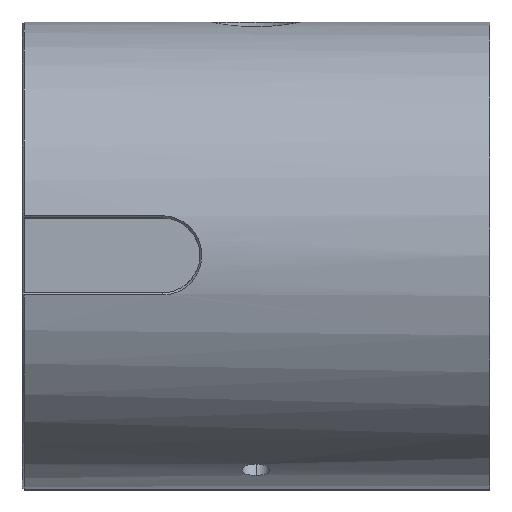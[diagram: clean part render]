
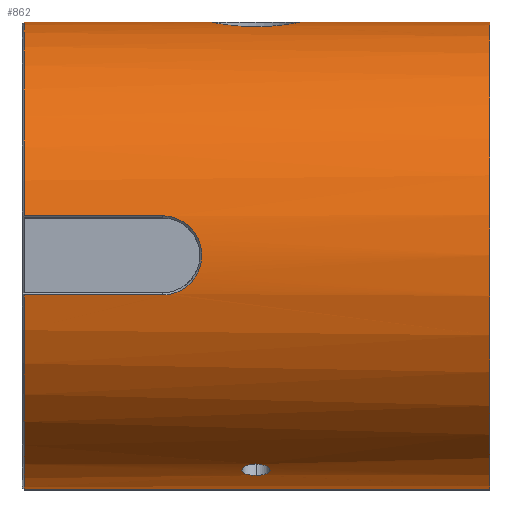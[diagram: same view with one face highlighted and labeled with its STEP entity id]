
A CAD part, top view. The second image highlights one B-rep face of the part: STEP entity #862.
In plain terms, the highlighted cylindrical face has radius 25 mm (diameter 50 mm), a partial arc.
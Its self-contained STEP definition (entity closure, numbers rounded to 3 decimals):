
#139=DIRECTION('',(-1.,0.,0.));
#140=VECTOR('',#139,20.);
#141=CARTESIAN_POINT('',(25.,25.,0.));
#142=LINE('',#141,#140);
#148=DIRECTION('',(-1.,0.,0.));
#149=VECTOR('',#148,19.8);
#150=CARTESIAN_POINT('',(-5.,25.,0.));
#151=LINE('',#150,#149);
#156=CARTESIAN_POINT('',(-24.8,4.234,24.639));
#166=CARTESIAN_POINT('',(-24.8,0.,0.));
#167=DIRECTION('',(1.,0.,0.));
#168=DIRECTION('',(0.,1.,0.));
#169=AXIS2_PLACEMENT_3D('',#166,#167,#168);
#171=CARTESIAN_POINT('',(-5.,25.,0.));
#172=CARTESIAN_POINT('',(-5.,25.,0.351));
#173=CARTESIAN_POINT('',(-4.928,24.985,1.037));
#174=CARTESIAN_POINT('',(-4.606,24.923,2.039));
#175=CARTESIAN_POINT('',(-4.079,24.83,2.955));
#176=CARTESIAN_POINT('',(-3.369,24.721,3.745));
#177=CARTESIAN_POINT('',(-2.51,24.617,4.367));
#178=CARTESIAN_POINT('',(-1.546,24.537,4.793));
#179=CARTESIAN_POINT('',(-0.522,24.493,5.009));
#180=CARTESIAN_POINT('',(0.522,24.493,5.009));
#181=CARTESIAN_POINT('',(1.546,24.537,4.793));
#182=CARTESIAN_POINT('',(2.51,24.617,4.367));
#183=CARTESIAN_POINT('',(3.369,24.721,3.745));
#184=CARTESIAN_POINT('',(4.079,24.83,2.955));
#185=CARTESIAN_POINT('',(4.606,24.923,2.039));
#186=CARTESIAN_POINT('',(4.928,24.985,1.037));
#187=CARTESIAN_POINT('',(5.,25.,0.351));
#188=CARTESIAN_POINT('',(5.,25.,0.));
#190=CARTESIAN_POINT('',(25.,0.,0.));
#191=DIRECTION('',(1.,0.,0.));
#192=DIRECTION('',(0.,1.,0.));
#193=AXIS2_PLACEMENT_3D('',#190,#191,#192);
#195=CARTESIAN_POINT('',(-24.8,0.,0.));
#196=DIRECTION('',(1.,0.,0.));
#197=DIRECTION('',(0.,-0.169,0.986));
#198=AXIS2_PLACEMENT_3D('',#195,#196,#197);
#200=DIRECTION('',(-1.,0.,0.));
#201=VECTOR('',#200,14.8);
#202=CARTESIAN_POINT('',(-10.,-4.234,24.639));
#203=LINE('',#202,#201);
#204=CARTESIAN_POINT('',(-10.,4.234,24.639));
#205=CARTESIAN_POINT('',(-9.776,4.234,24.639));
#206=CARTESIAN_POINT('',(-9.253,4.192,24.646));
#207=CARTESIAN_POINT('',(-8.443,3.968,24.684));
#208=CARTESIAN_POINT('',(-7.63,3.536,24.751));
#209=CARTESIAN_POINT('',(-6.932,2.94,24.83));
#210=CARTESIAN_POINT('',(-6.379,2.209,24.906));
#211=CARTESIAN_POINT('',(-5.995,1.379,24.967));
#212=CARTESIAN_POINT('',(-5.796,0.489,25.001));
#213=CARTESIAN_POINT('',(-5.789,-0.422,
25.002));
#214=CARTESIAN_POINT('',(-5.974,-1.315,24.97));
#215=CARTESIAN_POINT('',(-6.345,-2.151,24.912));
#216=CARTESIAN_POINT('',(-6.886,-2.891,24.835));
#217=CARTESIAN_POINT('',(-7.575,-3.497,24.756));
#218=CARTESIAN_POINT('',(-8.379,-3.942,24.688));
#219=CARTESIAN_POINT('',(-9.207,-4.185,24.647));
#220=CARTESIAN_POINT('',(-9.753,-4.234,24.639));
#221=CARTESIAN_POINT('',(-10.,-4.234,24.639));
#223=DIRECTION('',(1.,0.,0.));
#224=VECTOR('',#223,14.8);
#225=CARTESIAN_POINT('',(-24.8,4.234,24.639));
#226=LINE('',#225,#224);
#248=CARTESIAN_POINT('',(0.,-22.294,11.313));
#249=CARTESIAN_POINT('',(-0.131,-22.294,
11.313));
#250=CARTESIAN_POINT('',(-0.393,-22.309,
11.282));
#251=CARTESIAN_POINT('',(-0.759,-22.378,
11.147));
#252=CARTESIAN_POINT('',(-1.073,-22.485,10.93));
#253=CARTESIAN_POINT('',(-1.314,-22.621,10.646));
#254=CARTESIAN_POINT('',(-1.466,-22.775,10.312));
#255=CARTESIAN_POINT('',(-1.517,-22.936,9.95));
#256=CARTESIAN_POINT('',(-1.465,-23.091,9.585));
#257=CARTESIAN_POINT('',(-1.312,-23.23,9.242));
#258=CARTESIAN_POINT('',(-1.07,-23.345,8.946));
#259=CARTESIAN_POINT('',(-0.755,-23.431,
8.718));
#260=CARTESIAN_POINT('',(-0.39,-23.483,
8.575));
#261=CARTESIAN_POINT('',(-0.13,-23.495,
8.543));
#262=CARTESIAN_POINT('',(0.,-23.495,8.543));
#356=CARTESIAN_POINT('',(0.,-23.495,8.543));
#357=CARTESIAN_POINT('',(0.13,-23.495,8.543));
#358=CARTESIAN_POINT('',(0.39,-23.483,8.575));
#359=CARTESIAN_POINT('',(0.755,-23.431,8.718));
#360=CARTESIAN_POINT('',(1.07,-23.345,8.946));
#361=CARTESIAN_POINT('',(1.312,-23.23,9.242));
#362=CARTESIAN_POINT('',(1.465,-23.091,9.585));
#363=CARTESIAN_POINT('',(1.517,-22.936,9.95));
#364=CARTESIAN_POINT('',(1.466,-22.775,10.312));
#365=CARTESIAN_POINT('',(1.314,-22.621,10.646));
#366=CARTESIAN_POINT('',(1.073,-22.485,10.93));
#367=CARTESIAN_POINT('',(0.759,-22.378,11.147));
#368=CARTESIAN_POINT('',(0.393,-22.309,11.282));
#369=CARTESIAN_POINT('',(0.131,-22.294,11.313));
#370=CARTESIAN_POINT('',(0.,-22.294,11.313));
#380=DIRECTION('',(1.,0.,0.));
#381=VECTOR('',#380,49.8);
#382=CARTESIAN_POINT('',(-24.8,-25.,
0.));
#383=LINE('',#382,#381);
#467=CARTESIAN_POINT('',(-24.8,-4.234,24.639));
#558=CARTESIAN_POINT('',(25.,25.,0.));
#559=CARTESIAN_POINT('',(5.,25.,0.));
#560=VERTEX_POINT('',#558);
#561=VERTEX_POINT('',#559);
#562=CARTESIAN_POINT('',(-5.,25.,0.));
#563=VERTEX_POINT('',#562);
#564=VERTEX_POINT('',#248);
#565=VERTEX_POINT('',#262);
#566=CARTESIAN_POINT('',(25.,-25.,0.));
#567=VERTEX_POINT('',#566);
#572=VERTEX_POINT('',#204);
#573=VERTEX_POINT('',#221);
#588=VERTEX_POINT('',#156);
#593=CARTESIAN_POINT('',(-24.8,25.,0.));
#594=VERTEX_POINT('',#593);
#605=CARTESIAN_POINT('',(-24.8,-25.,
0.));
#606=VERTEX_POINT('',#605);
#609=VERTEX_POINT('',#467);
#833=CARTESIAN_POINT('',(25.132,0.,0.));
#834=DIRECTION('',(-1.,0.,0.));
#835=DIRECTION('',(0.,0.,1.));
#836=AXIS2_PLACEMENT_3D('',#833,#834,#835);
#837=CYLINDRICAL_SURFACE('',#836,25.);
#838=ORIENTED_EDGE('',*,*,#811,.F.);
#839=ORIENTED_EDGE('',*,*,#780,.F.);
#841=ORIENTED_EDGE('',*,*,#840,.T.);
#842=ORIENTED_EDGE('',*,*,#777,.F.);
#844=ORIENTED_EDGE('',*,*,#843,.T.);
#846=ORIENTED_EDGE('',*,*,#845,.F.);
#848=ORIENTED_EDGE('',*,*,#847,.F.);
#850=ORIENTED_EDGE('',*,*,#849,.F.);
#852=ORIENTED_EDGE('',*,*,#851,.F.);
#853=ORIENTED_EDGE('',*,*,#822,.F.);
#854=EDGE_LOOP('',(#838,#839,#841,#842,#844,#846,#848,#850,#852,#853));
#855=FACE_OUTER_BOUND('',#854,.F.);
#857=ORIENTED_EDGE('',*,*,#856,.T.);
#859=ORIENTED_EDGE('',*,*,#858,.T.);
#860=EDGE_LOOP('',(#857,#859));
#861=FACE_BOUND('',#860,.F.);
#862=ADVANCED_FACE('',(#855,#861),#837,.T.);
#170=CIRCLE('',#169,25.);
#189=B_SPLINE_CURVE_WITH_KNOTS('',3,(#171,#172,#173,#174,#175,#176,#177,#178,
#179,#180,#181,#182,#183,#184,#185,#186,#187,#188),.UNSPECIFIED.,.F.,.F.,(4,1,1,
1,1,1,1,1,1,1,1,1,1,1,1,4),(0.,0.067,0.133,0.2,
0.267,0.333,0.4,0.467,0.533,
0.6,0.667,0.733,0.8,0.867,
0.933,1.),.UNSPECIFIED.);
#194=CIRCLE('',#193,25.);
#199=CIRCLE('',#198,25.);
#222=B_SPLINE_CURVE_WITH_KNOTS('',3,(#204,#205,#206,#207,#208,#209,#210,#211,
#212,#213,#214,#215,#216,#217,#218,#219,#220,#221),.UNSPECIFIED.,.F.,.F.,(4,1,1,
1,1,1,1,1,1,1,1,1,1,1,1,4),(0.,0.052,0.121,
0.189,0.258,0.326,0.395,
0.463,0.532,0.6,0.669,
0.737,0.806,0.874,0.943,1.),
.UNSPECIFIED.);
#263=B_SPLINE_CURVE_WITH_KNOTS('',3,(#248,#249,#250,#251,#252,#253,#254,#255,
#256,#257,#258,#259,#260,#261,#262),.UNSPECIFIED.,.F.,.F.,(4,1,1,1,1,1,1,1,1,1,
1,1,4),(0.,0.083,0.167,0.25,0.333,
0.417,0.5,0.583,0.667,0.75,
0.833,0.917,1.),.UNSPECIFIED.);
#371=B_SPLINE_CURVE_WITH_KNOTS('',3,(#356,#357,#358,#359,#360,#361,#362,#363,
#364,#365,#366,#367,#368,#369,#370),.UNSPECIFIED.,.F.,.F.,(4,1,1,1,1,1,1,1,1,1,
1,1,4),(0.,0.083,0.167,0.25,0.333,
0.417,0.5,0.583,0.667,0.75,
0.833,0.917,1.),.UNSPECIFIED.);
#777=EDGE_CURVE('',#560,#561,#142,.T.);
#780=EDGE_CURVE('',#563,#594,#151,.T.);
#811=EDGE_CURVE('',#594,#588,#170,.T.);
#822=EDGE_CURVE('',#588,#572,#226,.T.);
#840=EDGE_CURVE('',#563,#561,#189,.T.);
#843=EDGE_CURVE('',#560,#567,#194,.T.);
#845=EDGE_CURVE('',#606,#567,#383,.T.);
#847=EDGE_CURVE('',#609,#606,#199,.T.);
#849=EDGE_CURVE('',#573,#609,#203,.T.);
#851=EDGE_CURVE('',#572,#573,#222,.T.);
#856=EDGE_CURVE('',#564,#565,#263,.T.);
#858=EDGE_CURVE('',#565,#564,#371,.T.);
